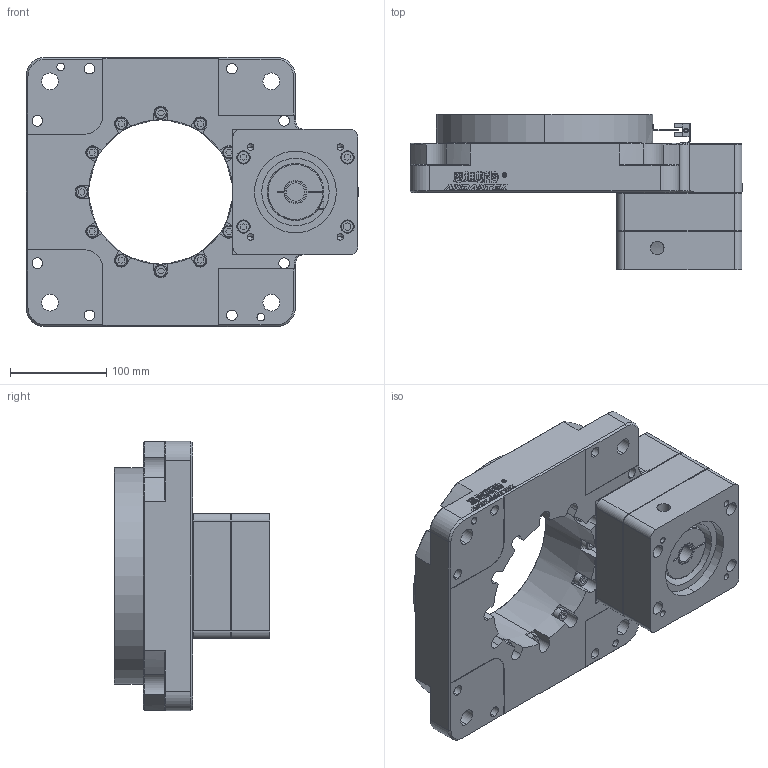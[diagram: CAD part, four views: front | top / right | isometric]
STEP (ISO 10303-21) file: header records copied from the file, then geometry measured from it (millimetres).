
FILE_DESCRIPTION(('Open CASCADE Model'),'2;1');
FILE_NAME('Open CASCADE Shape Model','2026-10-11T02:48:04',('Author'),( 'Open CASCADE'),'Open CASCADE STEP processor 7.8','Open CASCADE 7.8' ,'Unknown');
FILE_SCHEMA(('AUTOMOTIVE_DESIGN { 1 0 10303 214 1 1 1 1 }'));
Length unit declared in the file: millimetre
Products named in the file (3): NT280-K-10-B5(配110步进 输入19-85-132-M8); NT280-K-10-B5(配110步进 输入19-85-132-M8)-01; NT280-K-10-B5(配110步进 输入19-85-132-M8)-02
Assembly tree (2 placements, depth 2):
  NT280-K-10-B5(配110步进 输入19-85-132-M8)
    NT280-K-10-B5(配110步进 输入19-85-132-M8)-01
    NT280-K-10-B5(配110步进 输入19-85-132-M8)-02
Bounding box: 345 x 161.5 x 280 mm (x, y, z)
Volume: 4969639.6 mm3; surface area: 457756.2 mm2
Topology: 9 solids, 10 shells, 1342 faces, 3568 edges, 2314 vertices
Faces by surface type: plane 962, cylinder 258, cone 108, torus 14
Entity records: 94231 total; most frequent: CARTESIAN_POINT 25303, DIRECTION 12200, LINE 8111, VECTOR 8111, ORIENTED_EDGE 7056, PCURVE 7056, DEFINITIONAL_REPRESENTATION 7056, EDGE_CURVE 3528
